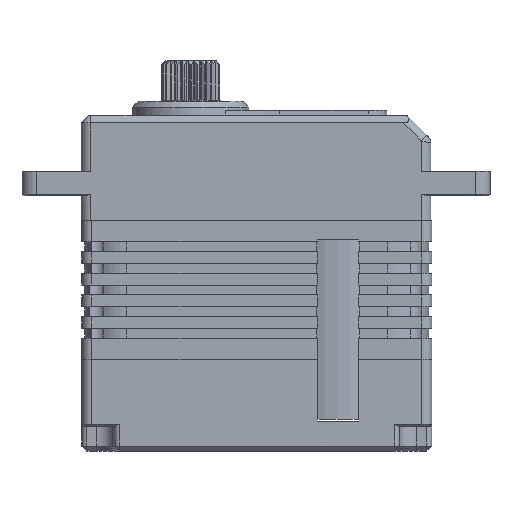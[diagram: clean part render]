
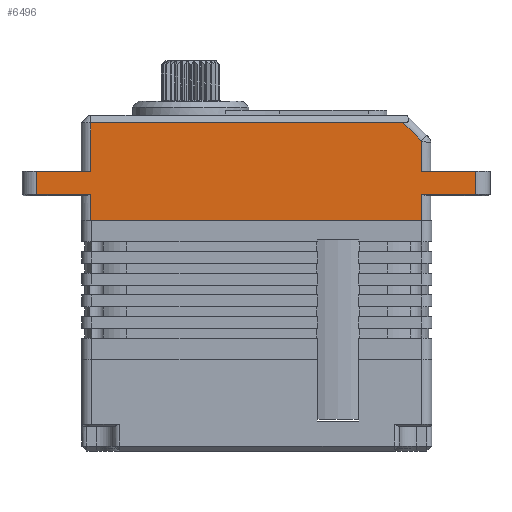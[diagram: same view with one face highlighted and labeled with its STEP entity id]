
A CAD part, front view. The second image highlights one B-rep face of the part: STEP entity #6496.
In plain terms, the highlighted planar face has unit normal (0, -1, 0).
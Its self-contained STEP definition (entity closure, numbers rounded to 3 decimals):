
#70 = ORIENTED_EDGE ( 'NONE', *, *, #23258, .F. ) ;
#92 = CARTESIAN_POINT ( 'NONE',  ( -93.503, -19.494, 5.495 ) ) ;
#283 = VERTEX_POINT ( 'NONE', #4611 ) ;
#528 = LINE ( 'NONE', #18303, #21210 ) ;
#556 = CARTESIAN_POINT ( 'NONE',  ( -61.835, -19.494, 15.395 ) ) ;
#694 = CARTESIAN_POINT ( 'NONE',  ( -94.503, -19.494, 10.495 ) ) ;
#900 = CARTESIAN_POINT ( 'NONE',  ( -94.503, -19.494, 8.145 ) ) ;
#997 = CARTESIAN_POINT ( 'NONE',  ( -99.003, -19.494, 10.495 ) ) ;
#1041 = VECTOR ( 'NONE', #17786, 1000. ) ;
#1346 = DIRECTION ( 'NONE',  ( 0., 0., -1. ) ) ;
#1842 = CARTESIAN_POINT ( 'NONE',  ( -93.503, -19.494, 5.495 ) ) ;
#2065 = AXIS2_PLACEMENT_3D ( 'NONE', #17145, #6554, #4473 ) ;
#2229 = DIRECTION ( 'NONE',  ( 0., 0., 1. ) ) ;
#2434 = EDGE_CURVE ( 'NONE', #12640, #24443, #11371, .T. ) ;
#3182 = VECTOR ( 'NONE', #21093, 1000. ) ;
#3232 = VERTEX_POINT ( 'NONE', #19173 ) ;
#3932 = EDGE_CURVE ( 'NONE', #283, #19408, #12077, .T. ) ;
#4473 = DIRECTION ( 'NONE',  ( 0., 0., 1. ) ) ;
#4553 = PLANE ( 'NONE',  #2065 ) ;
#4611 = CARTESIAN_POINT ( 'NONE',  ( -93.503, -19.494, 10.495 ) ) ;
#4653 = CARTESIAN_POINT ( 'NONE',  ( -54.503, -19.494, 10.495 ) ) ;
#4666 = VECTOR ( 'NONE', #6275, 1000. ) ;
#5245 = CARTESIAN_POINT ( 'NONE',  ( -61.835, -19.494, 15.395 ) ) ;
#5485 = DIRECTION ( 'NONE',  ( -1., 0., 0. ) ) ;
#6275 = DIRECTION ( 'NONE',  ( 0., 0., 1. ) ) ;
#6496 = ADVANCED_FACE ( 'NONE', ( #17563 ), #4553, .F. ) ;
#6554 = DIRECTION ( 'NONE',  ( 0., 1., 0. ) ) ;
#7038 = DIRECTION ( 'NONE',  ( -1., 0., 0. ) ) ;
#7263 = DIRECTION ( 'NONE',  ( 1., 0., 0. ) ) ;
#7350 = LINE ( 'NONE', #24383, #1041 ) ;
#7393 = ORIENTED_EDGE ( 'NONE', *, *, #2434, .F. ) ;
#7398 = CARTESIAN_POINT ( 'NONE',  ( -60.003, -19.494, 5.495 ) ) ;
#7535 = EDGE_LOOP ( 'NONE', ( #14905, #27233, #18549, #11567, #23467, #7393, #26296, #12783, #12998, #20101, #70, #18505, #25945 ) ) ;
#7660 = VECTOR ( 'NONE', #20486, 1000. ) ;
#8527 = CARTESIAN_POINT ( 'NONE',  ( -99.003, -19.494, 8.145 ) ) ;
#9404 = DIRECTION ( 'NONE',  ( 0.707, 0., -0.707 ) ) ;
#9799 = LINE ( 'NONE', #9871, #3182 ) ;
#9837 = VERTEX_POINT ( 'NONE', #997 ) ;
#9871 = CARTESIAN_POINT ( 'NONE',  ( -94.503, -19.494, 10.495 ) ) ;
#10358 = EDGE_CURVE ( 'NONE', #9837, #283, #25809, .T. ) ;
#10369 = VECTOR ( 'NONE', #7038, 1000. ) ;
#10518 = EDGE_CURVE ( 'NONE', #12046, #11308, #9799, .T. ) ;
#10661 = VERTEX_POINT ( 'NONE', #7398 ) ;
#10949 = VECTOR ( 'NONE', #9404, 1000. ) ;
#11308 = VERTEX_POINT ( 'NONE', #4653 ) ;
#11371 = LINE ( 'NONE', #900, #10369 ) ;
#11443 = EDGE_CURVE ( 'NONE', #3232, #10661, #7350, .T. ) ;
#11522 = EDGE_CURVE ( 'NONE', #19408, #20115, #15049, .T. ) ;
#11567 = ORIENTED_EDGE ( 'NONE', *, *, #10358, .F. ) ;
#11721 = CARTESIAN_POINT ( 'NONE',  ( -94.503, -19.494, 15.395 ) ) ;
#11947 = CARTESIAN_POINT ( 'NONE',  ( -54.503, -19.494, 8.145 ) ) ;
#12046 = VERTEX_POINT ( 'NONE', #21921 ) ;
#12077 = LINE ( 'NONE', #92, #27033 ) ;
#12640 = VERTEX_POINT ( 'NONE', #23928 ) ;
#12661 = LINE ( 'NONE', #5245, #10949 ) ;
#12783 = ORIENTED_EDGE ( 'NONE', *, *, #14583, .F. ) ;
#12998 = ORIENTED_EDGE ( 'NONE', *, *, #11443, .F. ) ;
#13900 = CARTESIAN_POINT ( 'NONE',  ( -94.503, -19.494, 5.495 ) ) ;
#14107 = VERTEX_POINT ( 'NONE', #11947 ) ;
#14357 = VECTOR ( 'NONE', #5485, 1000. ) ;
#14526 = CARTESIAN_POINT ( 'NONE',  ( -93.503, -19.494, 15.395 ) ) ;
#14583 = EDGE_CURVE ( 'NONE', #10661, #15734, #20015, .T. ) ;
#14862 = EDGE_CURVE ( 'NONE', #16216, #12046, #17966, .T. ) ;
#14905 = ORIENTED_EDGE ( 'NONE', *, *, #16078, .F. ) ;
#15049 = LINE ( 'NONE', #11721, #7660 ) ;
#15734 = VERTEX_POINT ( 'NONE', #23385 ) ;
#16078 = EDGE_CURVE ( 'NONE', #20115, #16216, #12661, .T. ) ;
#16216 = VERTEX_POINT ( 'NONE', #16238 ) ;
#16238 = CARTESIAN_POINT ( 'NONE',  ( -60.003, -19.494, 13.564 ) ) ;
#17145 = CARTESIAN_POINT ( 'NONE',  ( -94.503, -19.494, 5.495 ) ) ;
#17272 = LINE ( 'NONE', #23013, #23262 ) ;
#17563 = FACE_OUTER_BOUND ( 'NONE', #7535, .T. ) ;
#17786 = DIRECTION ( 'NONE',  ( 0., 0., -1. ) ) ;
#17966 = LINE ( 'NONE', #24179, #27237 ) ;
#18289 = LINE ( 'NONE', #21464, #26891 ) ;
#18303 = CARTESIAN_POINT ( 'NONE',  ( -54.503, -19.494, 5.495 ) ) ;
#18505 = ORIENTED_EDGE ( 'NONE', *, *, #10518, .F. ) ;
#18549 = ORIENTED_EDGE ( 'NONE', *, *, #3932, .F. ) ;
#19022 = LINE ( 'NONE', #1842, #4666 ) ;
#19173 = CARTESIAN_POINT ( 'NONE',  ( -60.003, -19.494, 8.145 ) ) ;
#19408 = VERTEX_POINT ( 'NONE', #14526 ) ;
#19444 = DIRECTION ( 'NONE',  ( -1., 0., 0. ) ) ;
#19553 = EDGE_CURVE ( 'NONE', #14107, #3232, #18289, .T. ) ;
#20015 = LINE ( 'NONE', #13900, #14357 ) ;
#20101 = ORIENTED_EDGE ( 'NONE', *, *, #19553, .F. ) ;
#20115 = VERTEX_POINT ( 'NONE', #556 ) ;
#20486 = DIRECTION ( 'NONE',  ( 1., 0., 0. ) ) ;
#21093 = DIRECTION ( 'NONE',  ( 1., 0., 0. ) ) ;
#21210 = VECTOR ( 'NONE', #1346, 1000. ) ;
#21464 = CARTESIAN_POINT ( 'NONE',  ( -94.503, -19.494, 8.145 ) ) ;
#21921 = CARTESIAN_POINT ( 'NONE',  ( -60.003, -19.494, 10.495 ) ) ;
#23013 = CARTESIAN_POINT ( 'NONE',  ( -99.003, -19.494, 5.495 ) ) ;
#23258 = EDGE_CURVE ( 'NONE', #11308, #14107, #528, .T. ) ;
#23262 = VECTOR ( 'NONE', #27357, 1000. ) ;
#23385 = CARTESIAN_POINT ( 'NONE',  ( -93.503, -19.494, 5.495 ) ) ;
#23467 = ORIENTED_EDGE ( 'NONE', *, *, #27459, .F. ) ;
#23928 = CARTESIAN_POINT ( 'NONE',  ( -93.503, -19.494, 8.145 ) ) ;
#24179 = CARTESIAN_POINT ( 'NONE',  ( -60.003, -19.494, 5.495 ) ) ;
#24383 = CARTESIAN_POINT ( 'NONE',  ( -60.003, -19.494, 5.495 ) ) ;
#24443 = VERTEX_POINT ( 'NONE', #8527 ) ;
#24939 = EDGE_CURVE ( 'NONE', #15734, #12640, #19022, .T. ) ;
#25486 = VECTOR ( 'NONE', #7263, 1000. ) ;
#25809 = LINE ( 'NONE', #694, #25486 ) ;
#25945 = ORIENTED_EDGE ( 'NONE', *, *, #14862, .F. ) ;
#26209 = DIRECTION ( 'NONE',  ( 0., 0., -1. ) ) ;
#26296 = ORIENTED_EDGE ( 'NONE', *, *, #24939, .F. ) ;
#26891 = VECTOR ( 'NONE', #19444, 1000. ) ;
#27033 = VECTOR ( 'NONE', #2229, 1000. ) ;
#27233 = ORIENTED_EDGE ( 'NONE', *, *, #11522, .F. ) ;
#27237 = VECTOR ( 'NONE', #26209, 1000. ) ;
#27357 = DIRECTION ( 'NONE',  ( 0., 0., 1. ) ) ;
#27459 = EDGE_CURVE ( 'NONE', #24443, #9837, #17272, .T. ) ;
